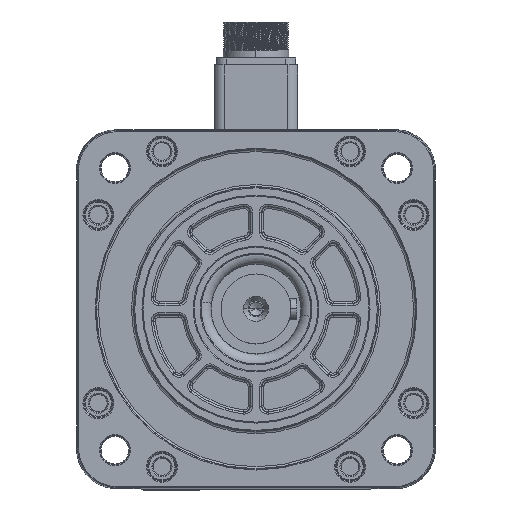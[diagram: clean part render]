
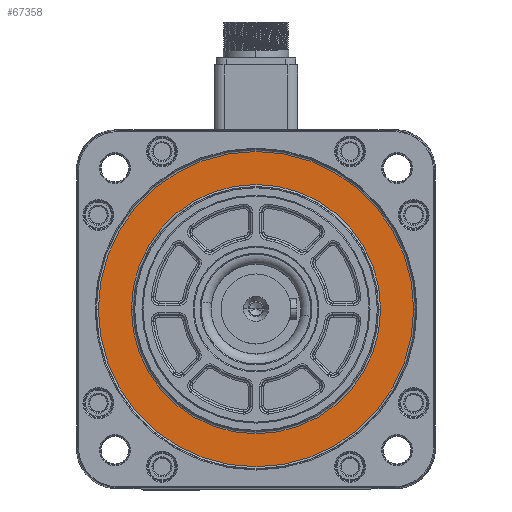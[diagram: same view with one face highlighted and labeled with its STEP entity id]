
A CAD part, top view. The second image highlights one B-rep face of the part: STEP entity #67358.
In plain terms, the highlighted planar face has unit normal (0, 0, 1).
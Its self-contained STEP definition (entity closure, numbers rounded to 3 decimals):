
#6326 = DIRECTION ( 'NONE',  ( 1., 0., 0. ) ) ;
#7708 = VERTEX_POINT ( 'NONE', #26029 ) ;
#8190 = CARTESIAN_POINT ( 'NONE',  ( 0., 0., 15. ) ) ;
#12612 = AXIS2_PLACEMENT_3D ( 'NONE', #125172, #42245, #126094 ) ;
#13263 = DIRECTION ( 'NONE',  ( 1., 0., 0. ) ) ;
#19521 = ORIENTED_EDGE ( 'NONE', *, *, #122764, .T. ) ;
#19727 = AXIS2_PLACEMENT_3D ( 'NONE', #145190, #174299, #106017 ) ;
#26029 = CARTESIAN_POINT ( 'NONE',  ( -62.466, 0., 15. ) ) ;
#29778 = VERTEX_POINT ( 'NONE', #85518 ) ;
#36496 = DIRECTION ( 'NONE',  ( 0., 0., 1. ) ) ;
#42245 = DIRECTION ( 'NONE',  ( 0., 0., 1. ) ) ;
#50207 = DIRECTION ( 'NONE',  ( 1., 0., 0. ) ) ;
#51839 = EDGE_LOOP ( 'NONE', ( #138703, #130193 ) ) ;
#55807 = EDGE_CURVE ( 'NONE', #176354, #29778, #82592, .T. ) ;
#56128 = VERTEX_POINT ( 'NONE', #168406 ) ;
#62930 = PLANE ( 'NONE',  #80248 ) ;
#63828 = EDGE_CURVE ( 'NONE', #29778, #176354, #98640, .T. ) ;
#67358 = ADVANCED_FACE ( 'NONE', ( #144028, #74804 ), #62930, .T. ) ;
#71594 = EDGE_CURVE ( 'NONE', #56128, #7708, #156496, .T. ) ;
#72540 = DIRECTION ( 'NONE',  ( 0., 0., -1. ) ) ;
#73936 = CARTESIAN_POINT ( 'NONE',  ( 0., 0., 15. ) ) ;
#74804 = FACE_BOUND ( 'NONE', #179373, .T. ) ;
#80248 = AXIS2_PLACEMENT_3D ( 'NONE', #73936, #131257, #6326 ) ;
#82592 = CIRCLE ( 'NONE', #12612, 79.034 ) ;
#85518 = CARTESIAN_POINT ( 'NONE',  ( 79.034, 0., 15. ) ) ;
#98640 = CIRCLE ( 'NONE', #145284, 79.034 ) ;
#106017 = DIRECTION ( 'NONE',  ( 1., 0., 0. ) ) ;
#110269 = CIRCLE ( 'NONE', #145086, 62.466 ) ;
#122764 = EDGE_CURVE ( 'NONE', #7708, #56128, #110269, .T. ) ;
#125172 = CARTESIAN_POINT ( 'NONE',  ( 0., 0., 15. ) ) ;
#126094 = DIRECTION ( 'NONE',  ( 1., 0., 0. ) ) ;
#126624 = CARTESIAN_POINT ( 'NONE',  ( -79.034, 0., 15. ) ) ;
#127210 = CARTESIAN_POINT ( 'NONE',  ( 0., 0., 15. ) ) ;
#130193 = ORIENTED_EDGE ( 'NONE', *, *, #55807, .T. ) ;
#131257 = DIRECTION ( 'NONE',  ( 0., 0., 1. ) ) ;
#138703 = ORIENTED_EDGE ( 'NONE', *, *, #63828, .T. ) ;
#144028 = FACE_OUTER_BOUND ( 'NONE', #51839, .T. ) ;
#145086 = AXIS2_PLACEMENT_3D ( 'NONE', #127210, #72540, #13263 ) ;
#145190 = CARTESIAN_POINT ( 'NONE',  ( 0., 0., 15. ) ) ;
#145284 = AXIS2_PLACEMENT_3D ( 'NONE', #8190, #36496, #50207 ) ;
#156496 = CIRCLE ( 'NONE', #19727, 62.466 ) ;
#165227 = ORIENTED_EDGE ( 'NONE', *, *, #71594, .T. ) ;
#168406 = CARTESIAN_POINT ( 'NONE',  ( 62.466, 0., 15. ) ) ;
#174299 = DIRECTION ( 'NONE',  ( 0., 0., -1. ) ) ;
#176354 = VERTEX_POINT ( 'NONE', #126624 ) ;
#179373 = EDGE_LOOP ( 'NONE', ( #165227, #19521 ) ) ;
